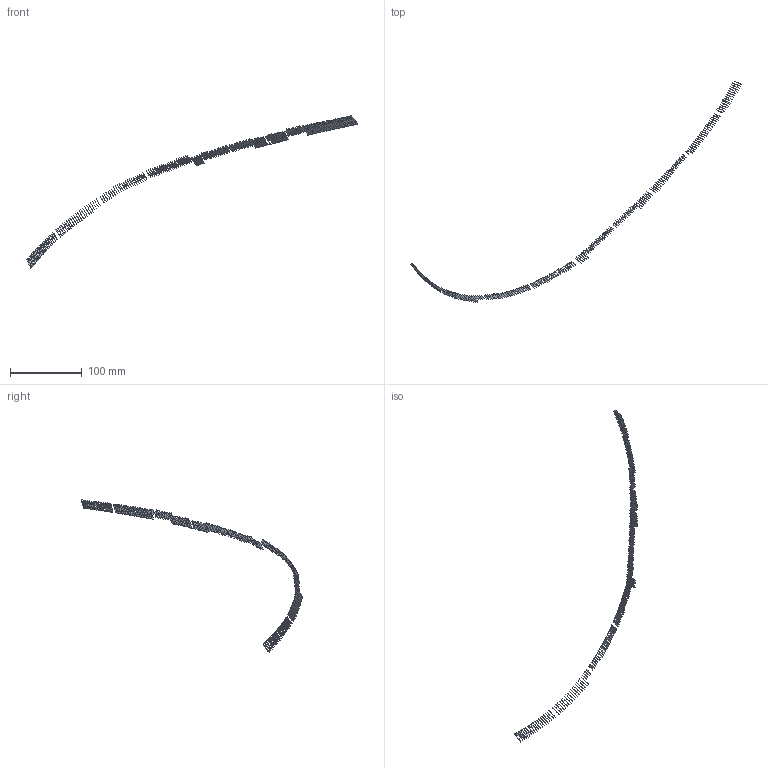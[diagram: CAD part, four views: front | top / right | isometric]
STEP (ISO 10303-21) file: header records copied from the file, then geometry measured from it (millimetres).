
FILE_DESCRIPTION(('FreeCAD Model'),'2;1');
FILE_NAME('Open CASCADE Shape Model','2022-05-22T07:50:32',('FreeCAD'),( 'FreeCAD'),'Open CASCADE STEP processor 7.5','FreeCAD','Unknown');
FILE_SCHEMA(('AUTOMOTIVE_DESIGN { 1 0 10303 214 1 1 1 1 }'));
Length unit declared in the file: millimetre
Products named in the file (199): Open CASCADE STEP translator 7.5 19; Open CASCADE STEP translator 7.5 19.1; Open CASCADE STEP translator 7.5 19.2; Open CASCADE STEP translator 7.5 19.3; Open CASCADE STEP translator 7.5 19.4; Open CASCADE STEP translator 7.5 19.5; Open CASCADE STEP translator 7.5 19.6; Open CASCADE STEP translator 7.5 19.7; Open CASCADE STEP translator 7.5 19.8; Open CASCADE STEP translator 7.5 19.9; Open CASCADE STEP translator 7.5 19.10; Open CASCADE STEP translator 7.5 19.11; Open CASCADE STEP translator 7.5 19.12; Open CASCADE STEP translator 7.5 19.13; Open CASCADE STEP translator 7.5 19.14; Open CASCADE STEP translator 7.5 19.15; Open CASCADE STEP translator 7.5 19.16; Open CASCADE STEP translator 7.5 19.17; Open CASCADE STEP translator 7.5 19.18; Open CASCADE STEP translator 7.5 19.19; Open CASCADE STEP translator 7.5 19.20; Open CASCADE STEP translator 7.5 19.21; Open CASCADE STEP translator 7.5 19.22; Open CASCADE STEP translator 7.5 19.23; Open CASCADE STEP translator 7.5 19.24; Open CASCADE STEP translator 7.5 19.25; Open CASCADE STEP translator 7.5 19.26; Open CASCADE STEP translator 7.5 19.27; Open CASCADE STEP translator 7.5 19.28; Open CASCADE STEP translator 7.5 19.29; Open CASCADE STEP translator 7.5 19.30; Open CASCADE STEP translator 7.5 19.31; Open CASCADE STEP translator 7.5 19.32; Open CASCADE STEP translator 7.5 19.33; Open CASCADE STEP translator 7.5 19.34; Open CASCADE STEP translator 7.5 19.35; Open CASCADE STEP translator 7.5 19.36; Open CASCADE STEP translator 7.5 19.37; Open CASCADE STEP translator 7.5 19.38; Open CASCADE STEP translator 7.5 19.39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
Assembly tree (198 placements, depth 2):
  Open CASCADE STEP translator 7.5 19
    Open CASCADE STEP translator 7.5 19.1
    Open CASCADE STEP translator 7.5 19.2
    Open CASCADE STEP translator 7.5 19.3
    Open CASCADE STEP translator 7.5 19.4
    Open CASCADE STEP translator 7.5 19.5
    Open CASCADE STEP translator 7.5 19.6
    Open CASCADE STEP translator 7.5 19.7
    Open CASCADE STEP translator 7.5 19.8
    Open CASCADE STEP translator 7.5 19.9
    Open CASCADE STEP translator 7.5 19.10
    Open CASCADE STEP translator 7.5 19.11
    Open CASCADE STEP translator 7.5 19.12
    Open CASCADE STEP translator 7.5 19.13
    Open CASCADE STEP translator 7.5 19.14
    Open CASCADE STEP translator 7.5 19.15
    Open CASCADE STEP translator 7.5 19.16
    Open CASCADE STEP translator 7.5 19.17
    Open CASCADE STEP translator 7.5 19.18
    Open CASCADE STEP translator 7.5 19.19
    Open CASCADE STEP translator 7.5 19.20
    Open CASCADE STEP translator 7.5 19.21
    Open CASCADE STEP translator 7.5 19.22
    Open CASCADE STEP translator 7.5 19.23
    Open CASCADE STEP translator 7.5 19.24
    Open CASCADE STEP translator 7.5 19.25
    Open CASCADE STEP translator 7.5 19.26
    Open CASCADE STEP translator 7.5 19.27
    Open CASCADE STEP translator 7.5 19.28
    Open CASCADE STEP translator 7.5 19.29
    Open CASCADE STEP translator 7.5 19.30
    Open CASCADE STEP translator 7.5 19.31
    Open CASCADE STEP translator 7.5 19.32
    Open CASCADE STEP translator 7.5 19.33
    Open CASCADE STEP translator 7.5 19.34
    Open CASCADE STEP translator 7.5 19.35
    Open CASCADE STEP translator 7.5 19.36
    Open CASCADE STEP translator 7.5 19.37
    Open CASCADE STEP translator 7.5 19.38
    Open CASCADE STEP translator 7.5 19.39
    Open CASCADE STEP translator 7.5 19.40
    Open CASCADE STEP translator 7.5 19.41
    Open CASCADE STEP translator 7.5 19.42
    Open CASCADE STEP translator 7.5 19.43
    Open CASCADE STEP translator 7.5 19.44
    Open CASCADE STEP translator 7.5 19.45
    Open CASCADE STEP translator 7.5 19.46
    Open CASCADE STEP translator 7.5 19.47
    Open CASCADE STEP translator 7.5 19.48
    Open CASCADE STEP translator 7.5 19.49
    Open CASCADE STEP translator 7.5 19.50
    Open CASCADE STEP translator 7.5 19.51
    Open CASCADE STEP translator 7.5 19.52
    Open CASCADE STEP translator 7.5 19.53
    Open CASCADE STEP translator 7.5 19.54
    Open CASCADE STEP translator 7.5 19.55
    Open CASCADE STEP translator 7.5 19.56
    Open CASCADE STEP translator 7.5 19.57
    Open CASCADE STEP translator 7.5 19.58
    Open CASCADE STEP translator 7.5 19.59
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Bounding box: 461.75 x 308.89 x 213.21 mm (x, y, z)
Surface area: 6762.3 mm2 (no closed solid volume)
Topology: 0 solids, 198 shells, 198 faces, 3250 edges, 3250 vertices
Faces by surface type: bspline 198
Entity records: 47810 total; most frequent: CARTESIAN_POINT 17241, B_SPLINE_CURVE_WITH_KNOTS 6500, ORIENTED_EDGE 3250, EDGE_CURVE 3250, VERTEX_POINT 3250, SURFACE_CURVE 3250, PCURVE 3250, DEFINITIONAL_REPRESENTATION 3250
